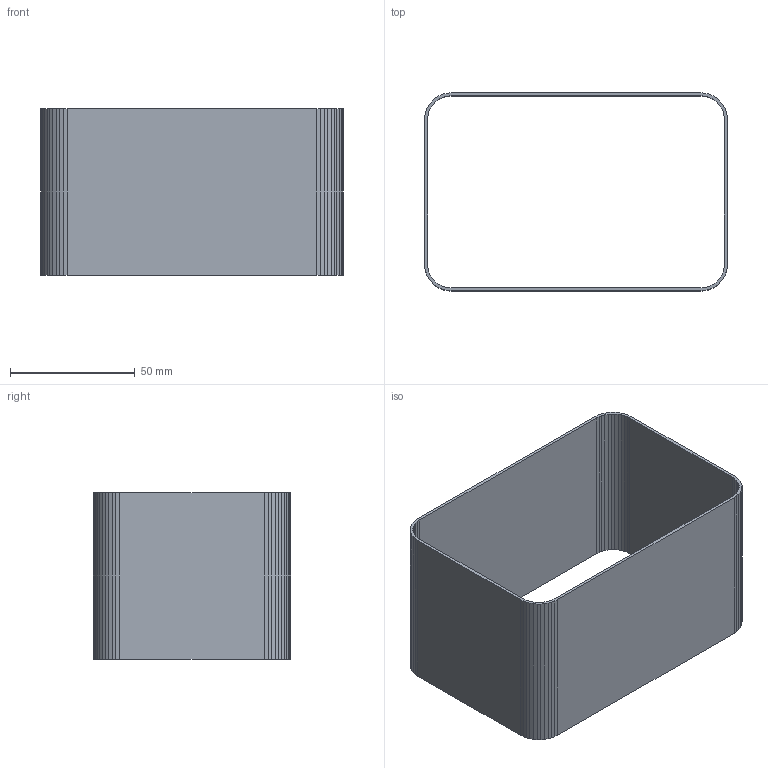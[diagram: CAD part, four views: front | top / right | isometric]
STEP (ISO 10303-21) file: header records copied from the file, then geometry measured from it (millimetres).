
FILE_DESCRIPTION(('Open CASCADE Model'),'2;1');
FILE_NAME('Open CASCADE Shape Model','2026-10-16T13:32:05',('Author'),( 'Open CASCADE'),'Open CASCADE STEP processor 7.9','Open CASCADE 7.9' ,'Unknown');
FILE_SCHEMA(('AUTOMOTIVE_DESIGN { 1 0 10303 214 1 1 1 1 }'));
Length unit declared in the file: millimetre
Products named in the file (1): Open CASCADE STEP translator 7.9 8
Bounding box: 121.2 x 79.2 x 66.5 mm (x, y, z)
Volume: 30213.8 mm3; surface area: 51286.2 mm2
Topology: 1 solids, 1 shells, 98 faces, 288 edges, 192 vertices
Faces by surface type: plane 98
Entity records: 6758 total; most frequent: CARTESIAN_POINT 1347, DIRECTION 870, LINE 672, VECTOR 672, ORIENTED_EDGE 576, PCURVE 576, DEFINITIONAL_REPRESENTATION 576, EDGE_CURVE 288
